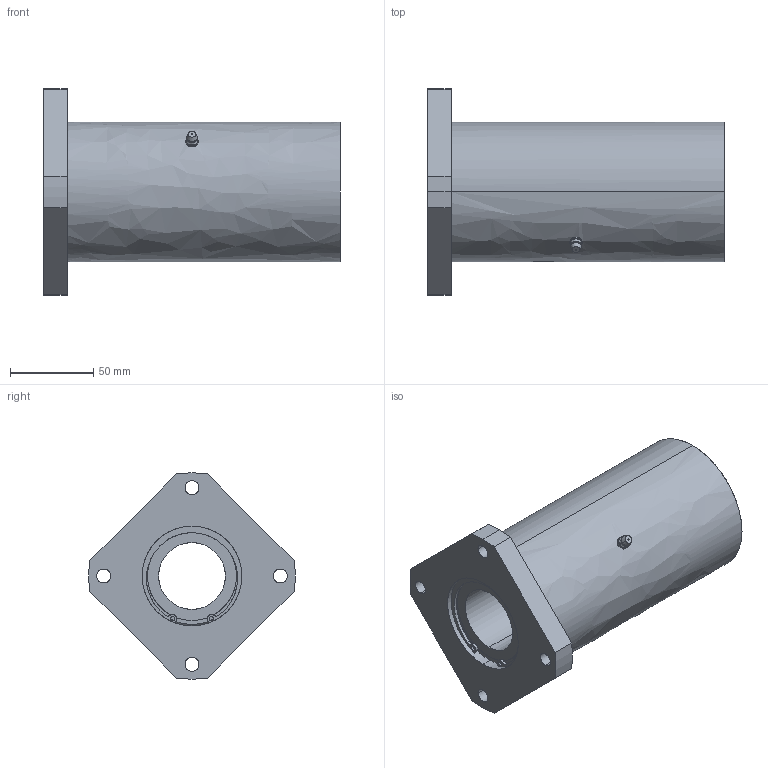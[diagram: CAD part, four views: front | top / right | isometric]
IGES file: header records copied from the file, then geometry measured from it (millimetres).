
Global section: file name: No Iges File Name specified; native system: AutoDesk Inventor R10; preprocessor: AutoDesk Inventor Iges Exporter R10; author: No Author specified; organization: No Organization specified; date: 20101214.140322; units: millimetre
Bounding box: 178 x 123.84 x 124 mm (x, y, z)
Surface area: 102682.2 mm2 (no closed solid volume)
Topology: 0 solids, 0 shells, 155 faces, 1070 edges, 1068 vertices
Faces by surface type: bspline 155
